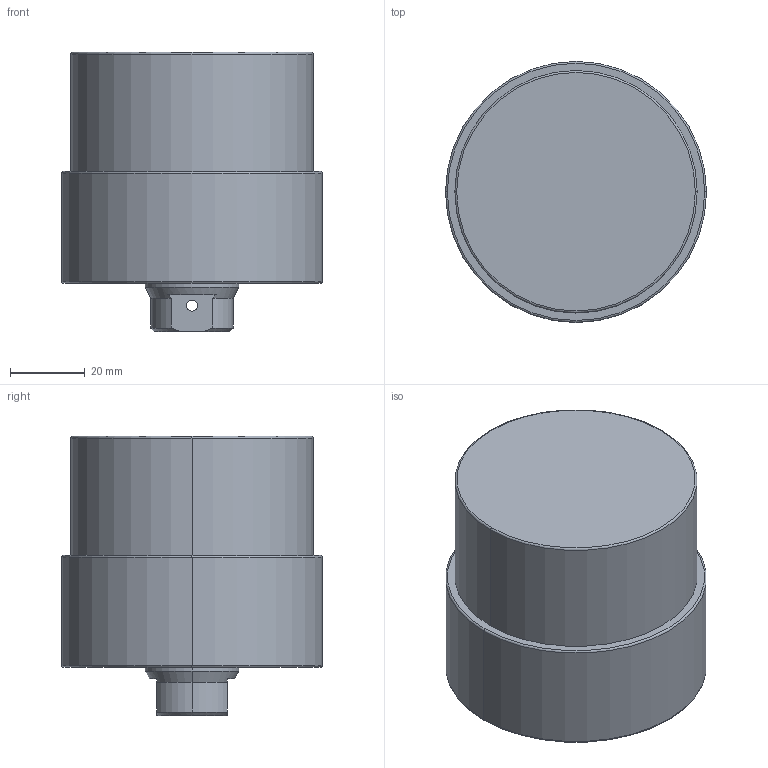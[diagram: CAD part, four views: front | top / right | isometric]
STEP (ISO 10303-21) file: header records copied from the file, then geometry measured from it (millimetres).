
FILE_DESCRIPTION (( 'STEP AP203' ), '1' );
FILE_NAME ('CLLU-065GB-(01-014).STEP', '2020-01-06T08:31:56', ( '' ), ( '' ), 'SwSTEP 2.0', 'SolidWorks 2015', '' );
FILE_SCHEMA (( 'CONFIG_CONTROL_DESIGN' ));
Length unit declared in the file: millimetre
Products named in the file (1): CLLU-065GB-(01-014)
Bounding box: 70 x 70 x 75 mm (x, y, z)
Volume: 222113.6 mm3; surface area: 23755 mm2
Topology: 1 solids, 1 shells, 68 faces, 157 edges, 90 vertices
Faces by surface type: cylinder 27, cone 25, plane 10, torus 6
Entity records: 2051 total; most frequent: CARTESIAN_POINT 438, DIRECTION 352, ORIENTED_EDGE 294, AXIS2_PLACEMENT_3D 148, EDGE_CURVE 147, VERTEX_POINT 90, EDGE_LOOP 81, CIRCLE 79
